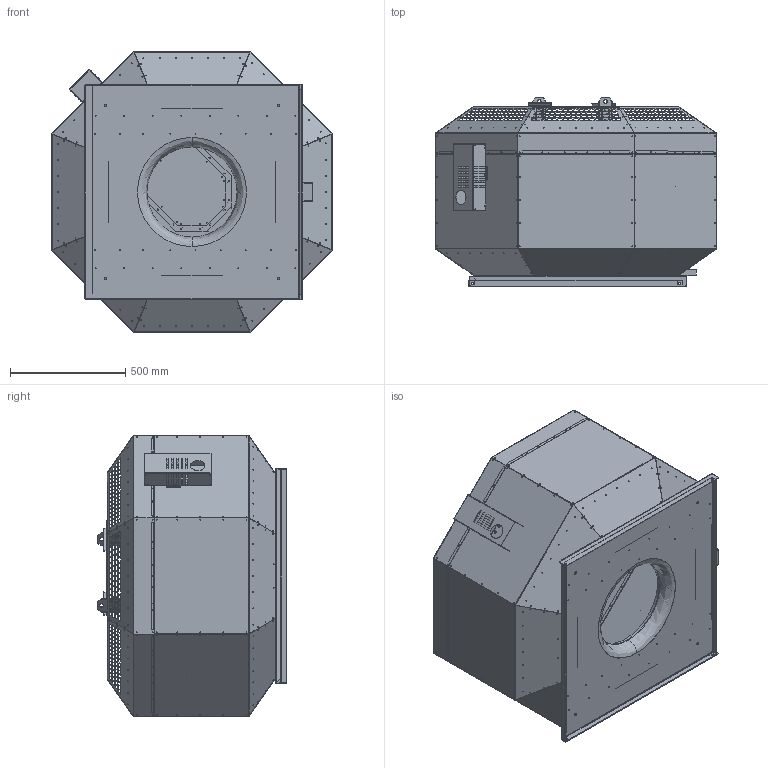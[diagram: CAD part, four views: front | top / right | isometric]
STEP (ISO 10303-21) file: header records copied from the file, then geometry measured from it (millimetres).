
FILE_DESCRIPTION (( 'STEP AP203' ), '1' );
FILE_NAME ('144625-00_DVNI630D4F430_step.step', '2018-07-19T07:17:39', ( '' ), ( '' ), 'SwSTEP 2.0', 'SolidWorks 2017', '' );
FILE_SCHEMA (( 'CONFIG_CONTROL_DESIGN' ));
Products named in the file (1): 144625-00_DVNI630D4F430_step
Bounding box: 1218 x 817.7 x 1218 mm (x, y, z)
Surface area: 10164255.7 mm2 (no closed solid volume)
Topology: 0 solids, 55 shells, 1897 faces, 15952 edges, 13417 vertices
Faces by surface type: plane 1430, cylinder 455, bspline 8, torus 4
Entity records: 154643 total; most frequent: CARTESIAN_POINT 34984, DIRECTION 22062, ORIENTED_EDGE 19803, EDGE_CURVE 15952, VERTEX_POINT 13417, VECTOR 13270, LINE 13270, EDGE_LOOP 5440
